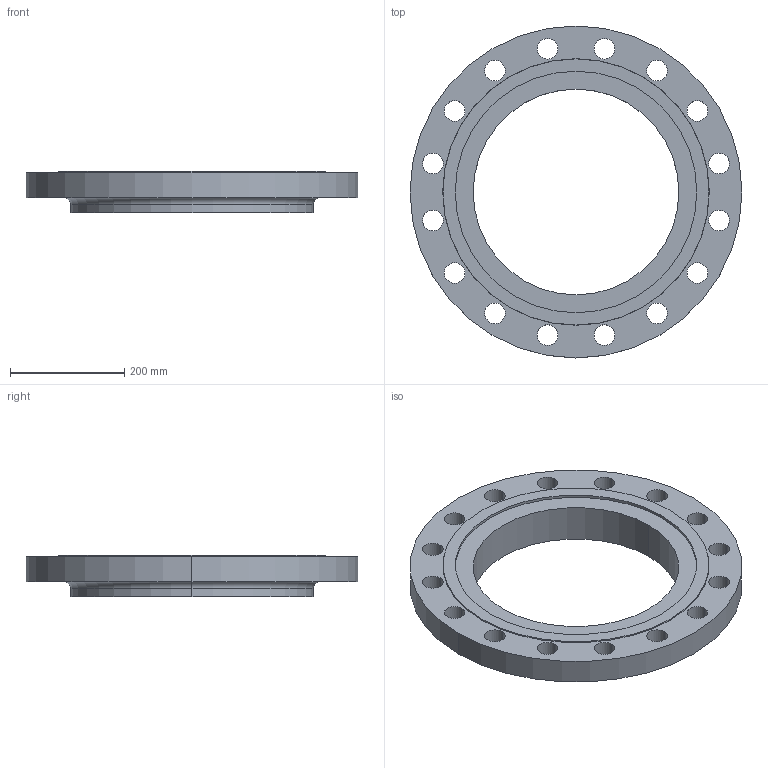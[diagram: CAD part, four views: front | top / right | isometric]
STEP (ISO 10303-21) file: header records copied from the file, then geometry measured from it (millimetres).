
FILE_DESCRIPTION (( 'STEP AP214' ), '1' );
FILE_NAME ('PN40 DN350 Type 12 - Type F Face.STEP', '2019-01-05T21:50:45', ( '' ), ( '' ), 'SwSTEP 2.0', 'SolidWorks 2019', '' );
FILE_SCHEMA (( 'AUTOMOTIVE_DESIGN' ));
Length unit declared in the file: millimetre
Products named in the file (1): PN40 DN350 Type 12 - Type F Face
Bounding box: 580 x 580 x 72 mm (x, y, z)
Volume: 7461325.8 mm3; surface area: 565216.3 mm2
Topology: 1 solids, 1 shells, 49 faces, 130 edges, 86 vertices
Faces by surface type: cylinder 40, plane 5, torus 2, cone 2
Entity records: 1678 total; most frequent: DIRECTION 318, CARTESIAN_POINT 266, ORIENTED_EDGE 260, AXIS2_PLACEMENT_3D 138, EDGE_CURVE 130, CIRCLE 88, VERTEX_POINT 86, EDGE_LOOP 86
